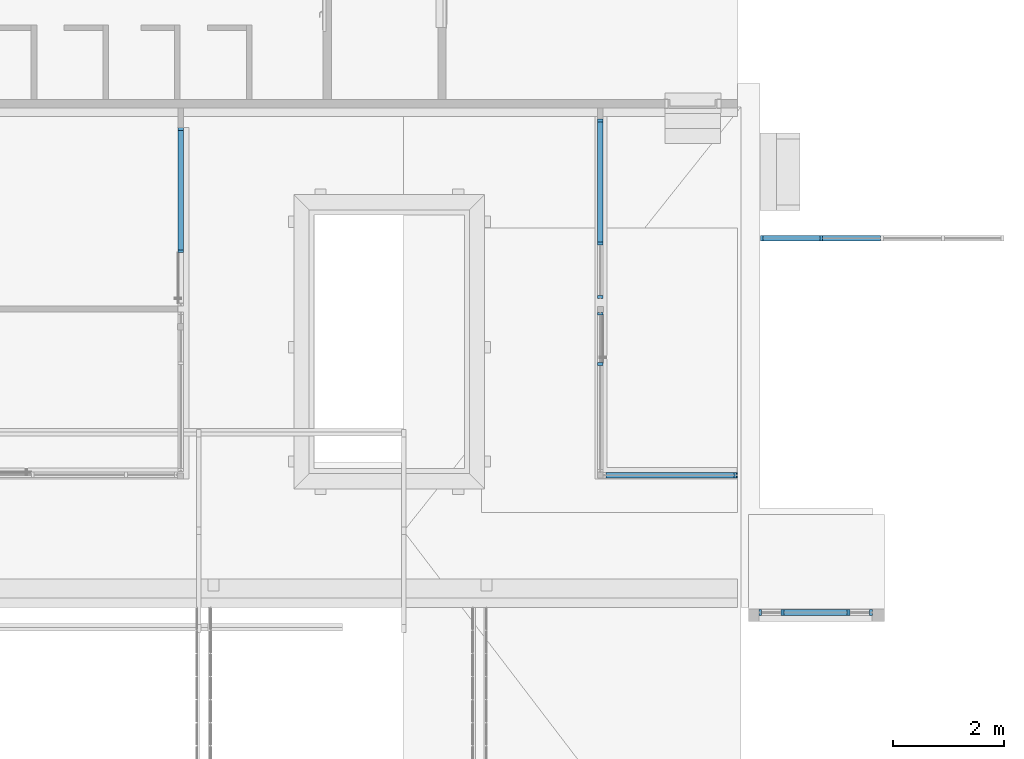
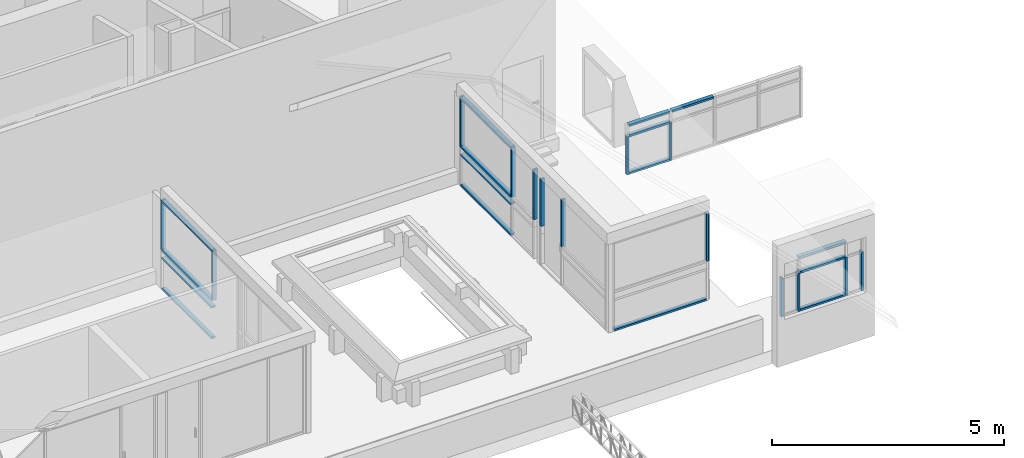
# One storey, part 12 of 153: 31 members, 6 elements without a shape of their own.
"""IFC4 building model written with IfcOpenShell, lengths in metres."""

import ifcopenshell
import ifcopenshell.guid

model = None  # the IFC model being written
_history = None  # IfcOwnerHistory: only IFC2X3 demands one
_inside = {}  # id of a spatial element -> (the spatial element, [elements in it])
_under = {}  # id of a project, library or spatial element -> (it, [spatial elements below it])
_declared = {}  # id of a project -> (the project, [libraries it declares])
_typed = {}  # id of a type object -> (the type object, [elements of that type])
_made_of = {}  # id of a material, layer set ... -> (it, [elements and type objects made of it])


def new_model(schema):
    """Start an empty IFC model of exactly this schema.

    Asked for "IFC4X3", IfcOpenShell would pick the latest addendum, in which some entities
    have other attributes; the version numbers below select the first issue.
    IFC2X3 requires an IfcOwnerHistory on every rooted entity: one is made here for all.
    """
    global model, _history
    if schema == "IFC4X3":
        model = ifcopenshell.file(schema_version=(4, 3, 0, 0))
    else:
        model = ifcopenshell.file(schema=schema)
    _inside.clear()
    _under.clear()
    _declared.clear()
    _typed.clear()
    _made_of.clear()
    _history = None
    if model.schema == "IFC2X3":
        org = make("IfcOrganization", Name="unknown")
        user = make(
            "IfcPersonAndOrganization",
            ThePerson=make("IfcPerson", FamilyName="unknown"),
            TheOrganization=org,
        )
        app = make(
            "IfcApplication",
            ApplicationDeveloper=org,
            Version="unknown",
            ApplicationFullName="unknown",
            ApplicationIdentifier="unknown",
        )
        _history = make(
            "IfcOwnerHistory",
            OwningUser=user,
            OwningApplication=app,
            ChangeAction="ADDED",
            CreationDate=0,
        )
    return model


def make(cls, **values):
    """One entity of the class cls with the attributes given. An attribute that is None is left unset."""
    return model.create_entity(
        cls, **{name: value for name, value in values.items() if value is not None}
    )


def entity(cls, *values):
    """Any entity or typed value of the class cls, its attributes in the order of the schema. None: left unset."""
    e = model.create_entity(cls)
    for i, value in enumerate(values):
        if value is not None:
            e[i] = value
    return e


def rooted(cls, **values):
    """An entity with a GlobalId (a new one), such as an element, a storey or a relation."""
    return make(cls, GlobalId=ifcopenshell.guid.new(), OwnerHistory=_history, **values)


def si_unit(unit_type, name, prefix=None):
    """IfcSIUnit, for example si_unit("LENGTHUNIT", "METRE", prefix="MILLI")."""
    return make("IfcSIUnit", UnitType=unit_type, Prefix=prefix, Name=name)


def converted_unit(unit_type, name, factor, base, dimensions=None, offset=None):
    """IfcConversionBasedUnit, such as the inch: factor (a typed value) times the base unit."""
    return make(
        "IfcConversionBasedUnit"
        if offset is None
        else "IfcConversionBasedUnitWithOffset",
        ConversionOffset=offset,
        Dimensions=None
        if dimensions is None
        else entity("IfcDimensionalExponents", *dimensions),
        UnitType=unit_type,
        Name=name,
        ConversionFactor=make(
            "IfcMeasureWithUnit", ValueComponent=factor, UnitComponent=base
        ),
    )


def derived_unit(unit_type, elements):
    """IfcDerivedUnit: a product of units, each with its exponent."""
    return make(
        "IfcDerivedUnit",
        Elements=[
            make("IfcDerivedUnitElement", Unit=unit, Exponent=power)
            for unit, power in elements
        ],
        UnitType=unit_type,
    )


def assignment(units):
    """IfcUnitAssignment: the units of a project."""
    return None if units is None else make("IfcUnitAssignment", Units=units)


def point(xyz):
    """IfcCartesianPoint."""
    return None if xyz is None else make("IfcCartesianPoint", Coordinates=xyz)


def direction(xyz):
    """IfcDirection."""
    return None if xyz is None else make("IfcDirection", DirectionRatios=xyz)


def frame(location, z_axis=None, x_axis=None):
    """IfcAxis2Placement3D, a coordinate frame: its origin and axes. An axis left out is left unset."""
    return make(
        "IfcAxis2Placement3D",
        Location=point(location),
        Axis=direction(z_axis),
        RefDirection=direction(x_axis),
    )


def origin():
    """The frame at (0, 0, 0) with its axes left unset."""
    return frame((0.0, 0.0, 0.0))


def place(relative_to, where):
    """IfcLocalPlacement: puts the frame where relative to a parent placement (None: the world)."""
    return make(
        "IfcLocalPlacement", PlacementRelTo=relative_to, RelativePlacement=where
    )


def context(
    kind, dimensions, precision=None, world=None, true_north=None, identifier=None
):
    """IfcGeometricRepresentationContext, for example the 3D "Model" context."""
    return make(
        "IfcGeometricRepresentationContext",
        ContextIdentifier=identifier,
        ContextType=kind,
        CoordinateSpaceDimension=dimensions,
        Precision=precision,
        WorldCoordinateSystem=world,
        TrueNorth=true_north,
    )


def subcontext(parent, identifier, kind, view, scale=None):
    """IfcGeometricRepresentationSubContext, for example "Body" below "Model"."""
    return make(
        "IfcGeometricRepresentationSubContext",
        ContextIdentifier=identifier,
        ContextType=kind,
        ParentContext=parent,
        TargetScale=scale,
        TargetView=view,
    )


def project(units=None, contexts=None):
    """IfcProject with its units and contexts."""
    return rooted(
        "IfcProject",
        Name="project",
        RepresentationContexts=contexts,
        UnitsInContext=assignment(units),
    )


def spatial(cls, under=None, at=None, **own):
    """A site, building, storey or space (cls), placed at a placement, below another one or the project."""
    s = rooted(cls, ObjectPlacement=at, **own)
    if under is not None:
        _under.setdefault(under.id(), (under, []))[1].append(s)
    return s


def point_list(points):
    """IfcCartesianPointList2D or 3D."""
    cls = (
        "IfcCartesianPointList2D" if len(points[0]) == 2 else "IfcCartesianPointList3D"
    )
    return make(cls, CoordList=points)


def indexed_curve(points, segments=None, self_intersect=None):
    """IfcIndexedPolyCurve: lines and arcs through numbered points (the first is 1)."""
    return make(
        "IfcIndexedPolyCurve",
        Points=point_list(points),
        Segments=segments,
        SelfIntersect=self_intersect,
    )


def outline(outer, holes=None, kind="AREA"):
    """IfcArbitraryClosedProfileDef: a profile drawn as a closed curve; with holes, ...WithVoids."""
    if holes is None:
        return make("IfcArbitraryClosedProfileDef", ProfileType=kind, OuterCurve=outer)
    return make(
        "IfcArbitraryProfileDefWithVoids",
        ProfileType=kind,
        OuterCurve=outer,
        InnerCurves=holes,
    )


def extrude(swept, where, along, depth):
    """IfcExtrudedAreaSolid: the profile swept, set in the frame where, extruded along a direction by depth."""
    return make(
        "IfcExtrudedAreaSolid",
        SweptArea=swept,
        Position=where,
        ExtrudedDirection=direction(along),
        Depth=depth,
    )


def shape(context_of_items, identifier, shape_type, items):
    """IfcShapeRepresentation: the items that make up one representation, for example the "Body"."""
    return make(
        "IfcShapeRepresentation",
        ContextOfItems=context_of_items,
        RepresentationIdentifier=identifier,
        RepresentationType=shape_type,
        Items=items,
    )


def source(mapping_origin, context_of_items, identifier, shape_type, items):
    """IfcRepresentationMap: a shape defined once, which mapped items show again and again."""
    return make(
        "IfcRepresentationMap",
        MappingOrigin=mapping_origin,
        MappedRepresentation=shape(context_of_items, identifier, shape_type, items),
    )


def transform(
    local_origin,
    x_axis=None,
    y_axis=None,
    z_axis=None,
    scale=None,
    scale2=None,
    scale3=None,
    uniform=True,
):
    """IfcCartesianTransformationOperator3D, or its non-uniform kind. x_axis, y_axis, z_axis: its Axis1, 2, 3."""
    if uniform:
        return make(
            "IfcCartesianTransformationOperator3D",
            Axis1=direction(x_axis),
            Axis2=direction(y_axis),
            LocalOrigin=point(local_origin),
            Scale=scale,
            Axis3=direction(z_axis),
        )
    return make(
        "IfcCartesianTransformationOperator3DnonUniform",
        Axis1=direction(x_axis),
        Axis2=direction(y_axis),
        LocalOrigin=point(local_origin),
        Scale=scale,
        Axis3=direction(z_axis),
        Scale2=scale2,
        Scale3=scale3,
    )


def mapped(mapping_source, mapping_target):
    """IfcMappedItem: shows the shape of a source again, moved by a transform."""
    return make(
        "IfcMappedItem", MappingSource=mapping_source, MappingTarget=mapping_target
    )


def material(Name=None, Category=None):
    """IfcMaterial."""
    return make("IfcMaterial", Name=Name, Category=Category)


def made_of(thing, what):
    """Note that an element or type object is made of a material, layer set ...; save() writes the relation."""
    if what is not None:
        _made_of.setdefault(what.id(), (what, []))[1].append(thing)
    return thing


def type_object(cls, material=None, **own):
    """A type object (cls), such as IfcWallType, which elements share."""
    return made_of(rooted(cls, **own), material)


def type_shapes(of_type, sources):
    """Give a type object the sources (RepresentationMaps) that its elements show as mapped items."""
    of_type.RepresentationMaps = sources


def element(
    cls,
    number,
    at=None,
    inside=None,
    cuts=None,
    type_object=None,
    material=None,
    context=None,
    identifier="Body",
    shape_type=None,
    held_by="IfcProductDefinitionShape",
    body=None,
    shapes=None,
    **own,
):
    """One element of the class cls, such as IfcWall. Its Tag is "e" and its number.

    at: its placement. inside: the storey or other place that contains it. cuts: it is an
    opening in that element (IfcRelVoidsElement). A single representation is given by context,
    identifier, shape_type and body (its items); several are given by shapes. held_by: the class
    of the entity that holds the representations. save() writes the other relations.
    """
    e = rooted(cls, Tag="e%d" % number, ObjectPlacement=at, **own)
    if body is not None:
        shapes = [shape(context, identifier, shape_type, body)]
    if shapes is not None:
        e.Representation = make(held_by, Representations=shapes)
    if inside is not None:
        _inside.setdefault(inside.id(), (inside, []))[1].append(e)
    if cuts is not None:
        rooted(
            "IfcRelVoidsElement", RelatingBuildingElement=cuts, RelatedOpeningElement=e
        )
    if type_object is not None:
        _typed.setdefault(type_object.id(), (type_object, []))[1].append(e)
    return made_of(e, material)


def aggregate(whole, parts):
    """IfcRelAggregates: a whole, such as a stair, and the parts it consists of."""
    return rooted("IfcRelAggregates", RelatingObject=whole, RelatedObjects=parts)


def save(model, path):
    """Write the relations noted so far, then the file.

    IfcRelAggregates (storeys below a building ...), IfcRelContainedInSpatialStructure (elements
    in a storey), IfcRelDefinesByType, IfcRelAssociatesMaterial and IfcRelDeclares: one each for
    every whole, place, type object, material and project.
    """
    for whole, parts in _under.values():
        aggregate(whole, parts)
    for where, things in _inside.values():
        rooted(
            "IfcRelContainedInSpatialStructure",
            RelatedElements=things,
            RelatingStructure=where,
        )
    for kind, things in _typed.values():
        rooted("IfcRelDefinesByType", RelatedObjects=things, RelatingType=kind)
    for what, things in _made_of.values():
        rooted("IfcRelAssociatesMaterial", RelatedObjects=things, RelatingMaterial=what)
    for by, libraries in _declared.values():
        rooted("IfcRelDeclares", RelatingContext=by, RelatedDefinitions=libraries)
    model.write(path)


model = new_model("IFC4")

# Units and contexts
model_context = context("Model", 3, precision=1e-05, world=origin(), true_north=direction((6.123031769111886e-17, 1.0)))
body_context = subcontext(model_context, "Body", "Model", "MODEL_VIEW")
ifc_project = project(units=[si_unit("LENGTHUNIT", "METRE"), si_unit("AREAUNIT", "SQUARE_METRE"), si_unit("VOLUMEUNIT", "CUBIC_METRE"), converted_unit("PLANEANGLEUNIT", "DEGREE", entity("IfcRatioMeasure", 0.017453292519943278), si_unit("PLANEANGLEUNIT", "RADIAN"), dimensions=[0, 0, 0, 0, 0, 0, 0]), si_unit("MASSUNIT", "GRAM", prefix="KILO"), derived_unit("MASSDENSITYUNIT", [(si_unit("MASSUNIT", "GRAM", prefix="KILO"), 1), (si_unit("LENGTHUNIT", "METRE"), -3)]), derived_unit("MOMENTOFINERTIAUNIT", [(si_unit("LENGTHUNIT", "METRE"), 4)]), si_unit("TIMEUNIT", "SECOND"), si_unit("FREQUENCYUNIT", "HERTZ"), si_unit("THERMODYNAMICTEMPERATUREUNIT", "DEGREE_CELSIUS"), derived_unit("THERMALTRANSMITTANCEUNIT", [(si_unit("MASSUNIT", "GRAM", prefix="KILO"), 1), (si_unit("THERMODYNAMICTEMPERATUREUNIT", "KELVIN"), -1), (si_unit("TIMEUNIT", "SECOND"), -3)]), derived_unit("VOLUMETRICFLOWRATEUNIT", [(si_unit("LENGTHUNIT", "METRE"), 3), (si_unit("TIMEUNIT", "SECOND"), -1)]), derived_unit("MASSFLOWRATEUNIT", [(si_unit("MASSUNIT", "GRAM", prefix="KILO"), 1), (si_unit("TIMEUNIT", "SECOND"), -1)]), derived_unit("ROTATIONALFREQUENCYUNIT", [(si_unit("TIMEUNIT", "SECOND"), -1)]), si_unit("ELECTRICCURRENTUNIT", "AMPERE"), si_unit("ELECTRICVOLTAGEUNIT", "VOLT"), si_unit("POWERUNIT", "WATT"), si_unit("FORCEUNIT", "NEWTON", prefix="KILO"), si_unit("ILLUMINANCEUNIT", "LUX"), si_unit("LUMINOUSFLUXUNIT", "LUMEN"), si_unit("LUMINOUSINTENSITYUNIT", "CANDELA"), derived_unit("USERDEFINED", [(si_unit("MASSUNIT", "GRAM", prefix="KILO"), -1), (si_unit("LENGTHUNIT", "METRE"), -2), (si_unit("TIMEUNIT", "SECOND"), 3), (si_unit("LUMINOUSFLUXUNIT", "LUMEN"), 1)]), derived_unit("SOUNDPOWERUNIT", [(si_unit("MASSUNIT", "GRAM", prefix="KILO"), 1), (si_unit("LENGTHUNIT", "METRE"), 2), (si_unit("TIMEUNIT", "SECOND"), -3)]), derived_unit("SOUNDPRESSUREUNIT", [(si_unit("MASSUNIT", "GRAM", prefix="KILO"), 1), (si_unit("LENGTHUNIT", "METRE"), -1), (si_unit("TIMEUNIT", "SECOND"), -2)]), derived_unit("LINEARVELOCITYUNIT", [(si_unit("LENGTHUNIT", "METRE"), 1), (si_unit("TIMEUNIT", "SECOND"), -1)]), si_unit("PRESSUREUNIT", "PASCAL"), derived_unit("USERDEFINED", [(si_unit("LENGTHUNIT", "METRE"), -2), (si_unit("MASSUNIT", "GRAM", prefix="KILO"), 1), (si_unit("TIMEUNIT", "SECOND"), -2)]), derived_unit("LINEARFORCEUNIT", [(si_unit("MASSUNIT", "GRAM", prefix="KILO"), 1), (si_unit("LENGTHUNIT", "METRE"), 1), (si_unit("TIMEUNIT", "SECOND"), -2), (si_unit("LENGTHUNIT", "METRE"), -1)]), derived_unit("PLANARFORCEUNIT", [(si_unit("MASSUNIT", "GRAM", prefix="KILO"), 1), (si_unit("LENGTHUNIT", "METRE"), 1), (si_unit("TIMEUNIT", "SECOND"), -2), (si_unit("LENGTHUNIT", "METRE"), -2)])], contexts=[model_context])

# Site, building, storey
site_placement = place(None, origin())
site = spatial("IfcSite", under=ifc_project, at=site_placement, Name="Superficie", CompositionType="ELEMENT")
building_placement = place(site_placement, origin())
building = spatial("IfcBuilding", under=site, at=building_placement, CompositionType="ELEMENT")
storey_placement = place(building_placement, frame((0.0, 0.0, 3.5999999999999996)))
storey = spatial("IfcBuildingStorey", under=building, at=storey_placement, Name="Nivel 1", CompositionType="ELEMENT", Elevation=3.5999999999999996)

# Curtain wall, members
curtain_wall_type = type_object("IfcCurtainWallType", Name="Muro cortina:Muro cortina - simple", PredefinedType="NOTDEFINED")
curtain_wall_1_placement = place(storey_placement, frame((0.0, 0.0, -3.5999999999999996)))
curtain_wall_1 = element("IfcCurtainWall", 1, at=curtain_wall_1_placement, inside=storey, type_object=curtain_wall_type, Name="Muro cortina:Muro cortina - simple", ObjectType="Muro cortina:Muro cortina - simple", PredefinedType="NOTDEFINED")
ifc_material = material(Name="<Unnamed>")
member_type_1 = type_object("IfcMemberType", Name="Montante rectangular:Montante rectangular - 5 x 10 cm", PredefinedType="MULLION", material=ifc_material)
shared_shape_1 = source(origin(), body_context, "Body", "SweptSolid", [
    extrude(outline(indexed_curve([(-0.05, -0.025), (0.05, -0.025), (0.05, 0.025), (-0.05, 0.025), (-0.05, -0.025)], self_intersect=False)), frame((0.0, 0.0, -1.0213856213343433), z_axis=(0.0, 0.0, 1.0), x_axis=(0.0, -1.0, 0.0)), (0.0, 0.0, 1.0), 1.0213856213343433),
])
type_shapes(member_type_1, [shared_shape_1])
member_1_placement = place(curtain_wall_1_placement, frame((20.996001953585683, -3.424170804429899, 4.494999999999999), z_axis=(0.0, 0.0, -1.0), x_axis=(-1.0, 0.0, 0.0)))
member_1 = element("IfcMember", 2, at=member_1_placement, type_object=member_type_1, material=ifc_material, Name="Montante rectangular:Montante rectangular - 5 x 10 cm", ObjectType="Montante rectangular:Montante rectangular - 5 x 10 cm", PredefinedType="MULLION", context=body_context, shape_type="MappedRepresentation", body=[
    mapped(shared_shape_1, transform((0.0, 0.0, 0.0), scale=1.0)),
])
member_2_placement = place(curtain_wall_1_placement, frame((22.981001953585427, -3.4241708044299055, 4.494999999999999), z_axis=(0.0, 0.0, -1.0), x_axis=(-1.0, 0.0, 0.0)))
member_2 = element("IfcMember", 3, at=member_2_placement, type_object=member_type_1, material=ifc_material, Name="Montante rectangular:Montante rectangular - 5 x 10 cm", ObjectType="Montante rectangular:Montante rectangular - 5 x 10 cm", PredefinedType="MULLION", context=body_context, shape_type="MappedRepresentation", body=[
    mapped(shared_shape_1, transform((0.0, 0.0, 0.0), scale=1.0)),
])
member_3_placement = place(curtain_wall_1_placement, frame((21.396001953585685, -3.4241708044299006, 4.494999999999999), z_axis=(0.0, 0.0, -1.0), x_axis=(-1.0, 0.0, 0.0)))
member_3 = element("IfcMember", 4, at=member_3_placement, type_object=member_type_1, material=ifc_material, Name="Montante rectangular:Montante rectangular - 5 x 10 cm", ObjectType="Montante rectangular:Montante rectangular - 5 x 10 cm", PredefinedType="MULLION", context=body_context, shape_type="MappedRepresentation", body=[
    mapped(shared_shape_1, transform((0.0, 0.0, 0.0), scale=1.0)),
])
member_4_placement = place(curtain_wall_1_placement, frame((22.581001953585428, -3.424170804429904, 4.494999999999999), z_axis=(0.0, 0.0, -1.0), x_axis=(-1.0, 0.0, 0.0)))
member_4 = element("IfcMember", 5, at=member_4_placement, type_object=member_type_1, material=ifc_material, Name="Montante rectangular:Montante rectangular - 5 x 10 cm", ObjectType="Montante rectangular:Montante rectangular - 5 x 10 cm", PredefinedType="MULLION", context=body_context, shape_type="MappedRepresentation", body=[
    mapped(shared_shape_1, transform((0.0, 0.0, 0.0), scale=1.0)),
])
member_type_2 = type_object("IfcMemberType", Name="Montante rectangular:Montante rectangular - 5 x 10 cm", PredefinedType="MULLION", material=ifc_material)
shared_shape_2 = source(origin(), body_context, "Body", "SweptSolid", [
    extrude(outline(indexed_curve([(-0.05, -0.025), (0.05, -0.025), (0.05, 0.025), (-0.05, 0.025), (-0.05, -0.025)], self_intersect=False)), frame((-0.025, 0.0, -1.1849999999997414), z_axis=(0.0, 0.0, 1.0), x_axis=(0.0, -1.0, 0.0)), (0.0, 0.0, 1.0), 1.1849999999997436),
])
type_shapes(member_type_2, [shared_shape_2])
member_5_placement = place(curtain_wall_1_placement, frame((21.396001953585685, -3.4241708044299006, 5.936385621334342), z_axis=(-1.0, 0.0, 0.0), x_axis=(0.0, 0.0, 1.0)))
member_5 = element("IfcMember", 6, at=member_5_placement, type_object=member_type_2, material=ifc_material, Name="Montante rectangular:Montante rectangular - 5 x 10 cm", ObjectType="Montante rectangular:Montante rectangular - 5 x 10 cm", PredefinedType="MULLION", context=body_context, shape_type="MappedRepresentation", body=[
    mapped(shared_shape_2, transform((0.0, 0.0, 0.0), scale=1.0)),
])
member_type_3 = type_object("IfcMemberType", Name="Montante rectangular:Montante rectangular - 5 x 10 cm", PredefinedType="MULLION", material=ifc_material)
shared_shape_3 = source(origin(), body_context, "Body", "SweptSolid", [
    extrude(outline(indexed_curve([(-0.05, -0.025), (0.05, -0.025), (0.05, 0.025), (-0.05, 0.025), (-0.05, -0.025)], self_intersect=False)), frame((0.0, 0.0, -1.1349999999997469), z_axis=(0.0, 0.0, 1.0), x_axis=(0.0, -1.0, 0.0)), (0.0, 0.0, 1.0), 1.1349999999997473),
])
type_shapes(member_type_3, [shared_shape_3])
member_6_placement = place(curtain_wall_1_placement, frame((21.421001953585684, -3.4241708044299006, 4.52), z_axis=(-1.0, 0.0, 0.0), x_axis=(0.0, 0.0, 1.0)))
member_6 = element("IfcMember", 7, at=member_6_placement, type_object=member_type_3, material=ifc_material, Name="Montante rectangular:Montante rectangular - 5 x 10 cm", ObjectType="Montante rectangular:Montante rectangular - 5 x 10 cm", PredefinedType="MULLION", context=body_context, shape_type="MappedRepresentation", body=[
    mapped(shared_shape_3, transform((0.0, 0.0, 0.0), scale=1.0)),
])
member_7_placement = place(curtain_wall_1_placement, frame((21.421001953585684, -3.4241708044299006, 5.516385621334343), z_axis=(-1.0, 0.0, 0.0), x_axis=(0.0, 0.0, 1.0)))
member_7 = element("IfcMember", 8, at=member_7_placement, type_object=member_type_3, material=ifc_material, Name="Montante rectangular:Montante rectangular - 5 x 10 cm", ObjectType="Montante rectangular:Montante rectangular - 5 x 10 cm", PredefinedType="MULLION", context=body_context, shape_type="MappedRepresentation", body=[
    mapped(shared_shape_3, transform((0.0, 0.0, 0.0), scale=1.0)),
])
aggregate(curtain_wall_1, [member_1, member_2, member_5, member_6, member_3, member_7, member_4])

curtain_wall_2_placement = place(storey_placement, frame((0.0, 0.0, -3.5999999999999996)))
curtain_wall_2 = element("IfcCurtainWall", 9, at=curtain_wall_2_placement, inside=storey, type_object=curtain_wall_type, Name="Muro cortina:Muro cortina - simple", ObjectType="Muro cortina:Muro cortina - simple", PredefinedType="NOTDEFINED")
member_type_4 = type_object("IfcMemberType", Name="Montante rectangular:Montante rectangular - 5 x 10 cm", PredefinedType="MULLION", material=ifc_material)
shared_shape_4 = source(origin(), body_context, "Body", "SweptSolid", [
    extrude(outline(indexed_curve([(-0.05, -0.025), (0.05, -0.025), (0.05, 0.025), (-0.05, 0.025), (-0.05, -0.025)], self_intersect=False)), frame((-0.025, 0.0, -1.2499999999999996), z_axis=(0.0, 0.0, 1.0), x_axis=(0.0, -1.0, 0.0)), (0.0, 0.0, 1.0), 1.2499999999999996),
])
type_shapes(member_type_4, [shared_shape_4])
member_8_placement = place(curtain_wall_2_placement, frame((20.58679901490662, -0.963606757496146, 4.63), z_axis=(0.0, 0.0, -1.0), x_axis=(1.0, 0.0, 0.0)))
member_8 = element("IfcMember", 10, at=member_8_placement, type_object=member_type_4, material=ifc_material, Name="Montante rectangular:Montante rectangular - 5 x 10 cm", ObjectType="Montante rectangular:Montante rectangular - 5 x 10 cm", PredefinedType="MULLION", context=body_context, shape_type="MappedRepresentation", body=[
    mapped(shared_shape_4, transform((0.0, 0.0, 0.0), scale=1.0)),
])
member_type_5 = type_object("IfcMemberType", Name="Montante rectangular:Montante rectangular - 5 x 10 cm", PredefinedType="MULLION", material=ifc_material)
shared_shape_5 = source(origin(), body_context, "Body", "SweptSolid", [
    extrude(outline(indexed_curve([(-0.05, -0.025), (0.05, -0.025), (0.05, 0.025), (-0.05, 0.025), (-0.05, -0.025)], self_intersect=False)), frame((0.0, 0.0, -2.2950000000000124), z_axis=(0.0, 0.0, 1.0), x_axis=(0.0, -1.0, 0.0)), (0.0, 0.0, 1.0), 2.2950000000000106),
])
type_shapes(member_type_5, [shared_shape_5])
member_9_placement = place(curtain_wall_2_placement, frame((20.521799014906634, -0.9636067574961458, 3.619999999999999), z_axis=(1.0, 0.0, 0.0), x_axis=(0.0, 0.0, 1.0)))
member_9 = element("IfcMember", 11, at=member_9_placement, type_object=member_type_5, material=ifc_material, Name="Montante rectangular:Montante rectangular - 5 x 10 cm", ObjectType="Montante rectangular:Montante rectangular - 5 x 10 cm", PredefinedType="MULLION", context=body_context, shape_type="MappedRepresentation", body=[
    mapped(shared_shape_5, transform((0.0, 0.0, 0.0), scale=1.0)),
])
member_type_6 = type_object("IfcMemberType", Name="Montante rectangular:Montante rectangular - 5 x 10 cm", PredefinedType="MULLION", material=ifc_material)
shared_shape_6 = source(origin(), body_context, "Body", "SweptSolid", [
    extrude(outline(indexed_curve([(-0.05, -0.025), (0.05, -0.025), (0.05, 0.025), (-0.05, 0.025), (-0.05, -0.025)], self_intersect=False)), frame((0.0, 0.0, -1.2499999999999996), z_axis=(0.0, 0.0, 1.0), x_axis=(0.0, -1.0, 0.0)), (0.0, 0.0, 1.0), 1.2499999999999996),
])
type_shapes(member_type_6, [shared_shape_6])
member_10_placement = place(curtain_wall_2_placement, frame((20.546799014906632, -0.9636067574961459, 4.63), z_axis=(0.0, 0.0, -1.0), x_axis=(1.0, 0.0, 0.0)))
member_10 = element("IfcMember", 12, at=member_10_placement, type_object=member_type_6, material=ifc_material, Name="Montante rectangular:Montante rectangular - 5 x 10 cm", ObjectType="Montante rectangular:Montante rectangular - 5 x 10 cm", PredefinedType="MULLION", context=body_context, shape_type="MappedRepresentation", body=[
    mapped(shared_shape_6, transform((0.0, 0.0, 0.0), scale=1.0)),
])
aggregate(curtain_wall_2, [member_8, member_9, member_10])

curtain_wall_3_placement = place(storey_placement, frame((0.0, 0.0, -3.5999999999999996)))
curtain_wall_3 = element("IfcCurtainWall", 13, at=curtain_wall_3_placement, inside=storey, type_object=curtain_wall_type, Name="Muro cortina:Muro cortina - simple", ObjectType="Muro cortina:Muro cortina - simple", PredefinedType="NOTDEFINED")
member_type_7 = type_object("IfcMemberType", Name="Montante rectangular:Montante rectangular - 5 x 10 cm", PredefinedType="MULLION", material=ifc_material)
shared_shape_7 = source(origin(), body_context, "Body", "SweptSolid", [
    extrude(outline(indexed_curve([(-0.05, -0.025), (0.05, -0.025), (0.05, 0.025), (-0.05, 0.025), (-0.05, -0.025)], self_intersect=False)), frame((0.0, 0.0, -1.2499999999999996), z_axis=(0.0, 0.0, 1.0), x_axis=(0.0, -1.0, 0.0)), (0.0, 0.0, 1.0), 1.2499999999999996),
])
type_shapes(member_type_7, [shared_shape_7])
member_11_placement = place(curtain_wall_3_placement, frame((18.12679901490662, 1.935232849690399, 4.63), z_axis=(0.0, 0.0, -1.0), x_axis=(0.0, 1.0, 0.0)))
member_11 = element("IfcMember", 14, at=member_11_placement, type_object=member_type_7, material=ifc_material, Name="Montante rectangular:Montante rectangular - 5 x 10 cm", ObjectType="Montante rectangular:Montante rectangular - 5 x 10 cm", PredefinedType="MULLION", context=body_context, shape_type="MappedRepresentation", body=[
    mapped(shared_shape_7, transform((0.0, 0.0, 0.0), scale=1.0)),
])
member_type_8 = type_object("IfcMemberType", Name="Montante rectangular:Montante rectangular - 5 x 10 cm", PredefinedType="MULLION", material=ifc_material)
shared_shape_8 = source(origin(), body_context, "Body", "SweptSolid", [
    extrude(outline(indexed_curve([(-0.05, -0.025), (0.05, -0.025), (0.05, 0.025), (-0.05, 0.025), (-0.05, -0.025)], self_intersect=False)), frame((0.0, 0.0, -1.2499999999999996), z_axis=(0.0, 0.0, 1.0), x_axis=(0.0, -1.0, 0.0)), (0.0, 0.0, 1.0), 1.2499999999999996),
])
type_shapes(member_type_8, [shared_shape_8])
member_12_placement = place(curtain_wall_3_placement, frame((18.12679901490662, 1.0352328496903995, 4.63), z_axis=(0.0, 0.0, -1.0), x_axis=(0.0, 1.0, 0.0)))
member_12 = element("IfcMember", 15, at=member_12_placement, type_object=member_type_8, material=ifc_material, Name="Montante rectangular:Montante rectangular - 5 x 10 cm", ObjectType="Montante rectangular:Montante rectangular - 5 x 10 cm", PredefinedType="MULLION", context=body_context, shape_type="MappedRepresentation", body=[
    mapped(shared_shape_8, transform((0.0, 0.0, 0.0), scale=1.0)),
])
aggregate(curtain_wall_3, [member_11, member_12])

curtain_wall_4_placement = place(storey_placement, frame((0.0, 0.0, -3.5999999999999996)))
curtain_wall_4 = element("IfcCurtainWall", 16, at=curtain_wall_4_placement, inside=storey, type_object=curtain_wall_type, Name="Muro cortina:Muro cortina - simple", ObjectType="Muro cortina:Muro cortina - simple", PredefinedType="NOTDEFINED")
member_type_9 = type_object("IfcMemberType", Name="Montante rectangular:Montante rectangular - 5 x 10 cm", PredefinedType="MULLION", material=ifc_material)
shared_shape_9 = source(origin(), body_context, "Body", "SweptSolid", [
    extrude(outline(indexed_curve([(-0.05, -0.025), (0.05, -0.025), (0.05, 0.025), (-0.05, 0.025), (-0.05, -0.025)], self_intersect=False)), frame((0.0, 0.0, -2.156160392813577), z_axis=(0.0, 0.0, 1.0), x_axis=(0.0, -1.0, 0.0)), (0.0, 0.0, 1.0), 2.156160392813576),
])
type_shapes(member_type_9, [shared_shape_9])
member_13_placement = place(curtain_wall_4_placement, frame((18.12679901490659, 5.376393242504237, 4.63), z_axis=(0.0, 1.0, 0.0), x_axis=(0.0, 0.0, 1.0)))
member_13 = element("IfcMember", 17, at=member_13_placement, type_object=member_type_9, material=ifc_material, Name="Montante rectangular:Montante rectangular - 5 x 10 cm", ObjectType="Montante rectangular:Montante rectangular - 5 x 10 cm", PredefinedType="MULLION", context=body_context, shape_type="MappedRepresentation", body=[
    mapped(shared_shape_9, transform((0.0, 0.0, 0.0), scale=1.0)),
])
member_14_placement = place(curtain_wall_4_placement, frame((18.12679901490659, 5.376393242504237, 4.43), z_axis=(0.0, 1.0, 0.0), x_axis=(0.0, 0.0, 1.0)))
member_14 = element("IfcMember", 18, at=member_14_placement, type_object=member_type_9, material=ifc_material, Name="Montante rectangular:Montante rectangular - 5 x 10 cm", ObjectType="Montante rectangular:Montante rectangular - 5 x 10 cm", PredefinedType="MULLION", context=body_context, shape_type="MappedRepresentation", body=[
    mapped(shared_shape_9, transform((0.0, 0.0, 0.0), scale=1.0)),
])
member_15_placement = place(curtain_wall_4_placement, frame((18.12679901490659, 5.376393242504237, 3.619999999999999), z_axis=(0.0, 1.0, 0.0), x_axis=(0.0, 0.0, 1.0)))
member_15 = element("IfcMember", 19, at=member_15_placement, type_object=member_type_9, material=ifc_material, Name="Montante rectangular:Montante rectangular - 5 x 10 cm", ObjectType="Montante rectangular:Montante rectangular - 5 x 10 cm", PredefinedType="MULLION", context=body_context, shape_type="MappedRepresentation", body=[
    mapped(shared_shape_9, transform((0.0, 0.0, 0.0), scale=1.0)),
])
member_type_10 = type_object("IfcMemberType", Name="Montante rectangular:Montante rectangular - 5 x 10 cm", PredefinedType="MULLION", material=ifc_material)
shared_shape_10 = source(origin(), body_context, "Body", "SweptSolid", [
    extrude(outline(indexed_curve([(-0.05, -0.025), (0.05, -0.025), (0.05, 0.025), (-0.05, 0.025), (-0.05, -0.025)], self_intersect=False)), frame((0.0, 0.0, -1.3199999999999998), z_axis=(0.0, 0.0, 1.0), x_axis=(0.0, -1.0, 0.0)), (0.0, 0.0, 1.0), 1.3199999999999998),
])
type_shapes(member_type_10, [shared_shape_10])
member_16_placement = place(curtain_wall_4_placement, frame((18.12679901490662, 3.1952328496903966, 4.63), z_axis=(0.0, 0.0, -1.0), x_axis=(0.0, 1.0, 0.0)))
member_16 = element("IfcMember", 20, at=member_16_placement, type_object=member_type_10, material=ifc_material, Name="Montante rectangular:Montante rectangular - 5 x 10 cm", ObjectType="Montante rectangular:Montante rectangular - 5 x 10 cm", PredefinedType="MULLION", context=body_context, shape_type="MappedRepresentation", body=[
    mapped(shared_shape_10, transform((0.0, 0.0, 0.0), scale=1.0)),
])
member_17_placement = place(curtain_wall_4_placement, frame((18.12679901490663, 2.235232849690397, 4.63), z_axis=(0.0, 0.0, -1.0), x_axis=(0.0, 1.0, 0.0)))
member_17 = element("IfcMember", 21, at=member_17_placement, type_object=member_type_10, material=ifc_material, Name="Montante rectangular:Montante rectangular - 5 x 10 cm", ObjectType="Montante rectangular:Montante rectangular - 5 x 10 cm", PredefinedType="MULLION", context=body_context, shape_type="MappedRepresentation", body=[
    mapped(shared_shape_10, transform((0.0, 0.0, 0.0), scale=1.0)),
])

# Curtain wall, member
curtain_wall_5_placement = place(storey_placement, frame((0.0, 0.0, -3.5999999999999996)))
curtain_wall_5 = element("IfcCurtainWall", 22, at=curtain_wall_5_placement, inside=storey, type_object=curtain_wall_type, Name="Muro cortina:Muro cortina - simple", ObjectType="Muro cortina:Muro cortina - simple", PredefinedType="NOTDEFINED")
member_18_placement = place(curtain_wall_5_placement, frame((10.596799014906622, 3.057083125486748, 4.63), z_axis=(0.0, 0.0, -1.0), x_axis=(0.0, 1.0, 0.0)))
member_18 = element("IfcMember", 23, at=member_18_placement, type_object=member_type_10, material=ifc_material, Name="Montante rectangular:Montante rectangular - 5 x 10 cm", ObjectType="Montante rectangular:Montante rectangular - 5 x 10 cm", PredefinedType="MULLION", context=body_context, shape_type="MappedRepresentation", body=[
    mapped(shared_shape_10, transform((0.0, 0.0, 0.0), scale=1.0)),
])

# Member
member_type_11 = type_object("IfcMemberType", Name="Montante rectangular:Montante rectangular - 5 x 10 cm", PredefinedType="MULLION", material=ifc_material)
shared_shape_11 = source(origin(), body_context, "Body", "SweptSolid", [
    extrude(outline(indexed_curve([(-0.05, -0.025), (0.05, -0.025), (0.05, 0.025), (-0.05, 0.025), (-0.05, -0.025)], self_intersect=False)), frame((-0.025, 0.0, -1.3199999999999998), z_axis=(0.0, 0.0, 1.0), x_axis=(0.0, -1.0, 0.0)), (0.0, 0.0, 1.0), 1.3199999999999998),
])
type_shapes(member_type_11, [shared_shape_11])
member_19_placement = place(curtain_wall_4_placement, frame((18.12679901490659, 5.426393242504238, 4.63), z_axis=(0.0, 0.0, -1.0), x_axis=(0.0, 1.0, 0.0)))
member_19 = element("IfcMember", 24, at=member_19_placement, type_object=member_type_11, material=ifc_material, Name="Montante rectangular:Montante rectangular - 5 x 10 cm", ObjectType="Montante rectangular:Montante rectangular - 5 x 10 cm", PredefinedType="MULLION", context=body_context, shape_type="MappedRepresentation", body=[
    mapped(shared_shape_11, transform((0.0, 0.0, 0.0), scale=1.0)),
])

member_20_placement = place(curtain_wall_5_placement, frame((10.596799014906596, 5.276393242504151, 4.63), z_axis=(0.0, 0.0, -1.0), x_axis=(0.0, 1.0, 0.0)))
member_20 = element("IfcMember", 25, at=member_20_placement, type_object=member_type_11, material=ifc_material, Name="Montante rectangular:Montante rectangular - 5 x 10 cm", ObjectType="Montante rectangular:Montante rectangular - 5 x 10 cm", PredefinedType="MULLION", context=body_context, shape_type="MappedRepresentation", body=[
    mapped(shared_shape_11, transform((0.0, 0.0, 0.0), scale=1.0)),
])

member_type_12 = type_object("IfcMemberType", Name="Montante rectangular:Montante rectangular - 5 x 10 cm", PredefinedType="MULLION", material=ifc_material)
shared_shape_12 = source(origin(), body_context, "Body", "SweptSolid", [
    extrude(outline(indexed_curve([(-0.05, -0.025), (0.05, -0.025), (0.05, 0.025), (-0.05, 0.025), (-0.05, -0.025)], self_intersect=False)), frame((-0.025, 0.0, -2.1561603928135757), z_axis=(0.0, 0.0, 1.0), x_axis=(0.0, -1.0, 0.0)), (0.0, 0.0, 1.0), 2.1561603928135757),
])
type_shapes(member_type_12, [shared_shape_12])
member_21_placement = place(curtain_wall_4_placement, frame((18.12679901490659, 5.376393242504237, 5.949999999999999), z_axis=(0.0, 1.0, 0.0), x_axis=(0.0, 0.0, 1.0)))
member_21 = element("IfcMember", 26, at=member_21_placement, type_object=member_type_12, material=ifc_material, Name="Montante rectangular:Montante rectangular - 5 x 10 cm", ObjectType="Montante rectangular:Montante rectangular - 5 x 10 cm", PredefinedType="MULLION", context=body_context, shape_type="MappedRepresentation", body=[
    mapped(shared_shape_12, transform((0.0, 0.0, 0.0), scale=1.0)),
])

aggregate(curtain_wall_4, [member_13, member_14, member_16, member_15, member_19, member_17, member_21])

member_type_13 = type_object("IfcMemberType", Name="Montante rectangular:Montante rectangular - 5 x 10 cm", PredefinedType="MULLION", material=ifc_material)
shared_shape_13 = source(origin(), body_context, "Body", "SweptSolid", [
    extrude(outline(indexed_curve([(-0.05, -0.025), (0.05, -0.025), (0.05, 0.025), (-0.05, 0.025), (-0.05, -0.025)], self_intersect=False)), frame((0.0, 0.0, -2.1443101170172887), z_axis=(0.0, 0.0, 1.0), x_axis=(0.0, -1.0, 0.0)), (0.0, 0.0, 1.0), 2.144310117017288),
])
type_shapes(member_type_13, [shared_shape_13])
member_22_placement = place(curtain_wall_5_placement, frame((10.596799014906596, 5.22639324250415, 4.63), z_axis=(0.0, 1.0, 0.0), x_axis=(0.0, 0.0, 1.0)))
member_22 = element("IfcMember", 27, at=member_22_placement, type_object=member_type_13, material=ifc_material, Name="Montante rectangular:Montante rectangular - 5 x 10 cm", ObjectType="Montante rectangular:Montante rectangular - 5 x 10 cm", PredefinedType="MULLION", context=body_context, shape_type="MappedRepresentation", body=[
    mapped(shared_shape_13, transform((0.0, 0.0, 0.0), scale=1.0)),
])

member_23_placement = place(curtain_wall_5_placement, frame((10.596799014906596, 5.22639324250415, 4.43), z_axis=(0.0, 1.0, 0.0), x_axis=(0.0, 0.0, 1.0)))
member_23 = element("IfcMember", 28, at=member_23_placement, type_object=member_type_13, material=ifc_material, Name="Montante rectangular:Montante rectangular - 5 x 10 cm", ObjectType="Montante rectangular:Montante rectangular - 5 x 10 cm", PredefinedType="MULLION", context=body_context, shape_type="MappedRepresentation", body=[
    mapped(shared_shape_13, transform((0.0, 0.0, 0.0), scale=1.0)),
])

member_24_placement = place(curtain_wall_5_placement, frame((10.596799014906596, 5.22639324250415, 3.619999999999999), z_axis=(0.0, 1.0, 0.0), x_axis=(0.0, 0.0, 1.0)))
member_24 = element("IfcMember", 29, at=member_24_placement, type_object=member_type_13, material=ifc_material, Name="Montante rectangular:Montante rectangular - 5 x 10 cm", ObjectType="Montante rectangular:Montante rectangular - 5 x 10 cm", PredefinedType="MULLION", context=body_context, shape_type="MappedRepresentation", body=[
    mapped(shared_shape_13, transform((0.0, 0.0, 0.0), scale=1.0)),
])

member_type_14 = type_object("IfcMemberType", Name="Montante rectangular:Montante rectangular - 5 x 10 cm", PredefinedType="MULLION", material=ifc_material)
shared_shape_14 = source(origin(), body_context, "Body", "SweptSolid", [
    extrude(outline(indexed_curve([(-0.05, -0.025), (0.05, -0.025), (0.05, 0.025), (-0.05, 0.025), (-0.05, -0.025)], self_intersect=False)), frame((-0.025, 0.0, -2.1443101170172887), z_axis=(0.0, 0.0, 1.0), x_axis=(0.0, -1.0, 0.0)), (0.0, 0.0, 1.0), 2.1443101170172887),
])
type_shapes(member_type_14, [shared_shape_14])
member_25_placement = place(curtain_wall_5_placement, frame((10.596799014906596, 5.22639324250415, 5.949999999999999), z_axis=(0.0, 1.0, 0.0), x_axis=(0.0, 0.0, 1.0)))
member_25 = element("IfcMember", 30, at=member_25_placement, type_object=member_type_14, material=ifc_material, Name="Montante rectangular:Montante rectangular - 5 x 10 cm", ObjectType="Montante rectangular:Montante rectangular - 5 x 10 cm", PredefinedType="MULLION", context=body_context, shape_type="MappedRepresentation", body=[
    mapped(shared_shape_14, transform((0.0, 0.0, 0.0), scale=1.0)),
])

aggregate(curtain_wall_5, [member_22, member_23, member_18, member_24, member_20, member_25])

# Curtain wall, members
curtain_wall_6_placement = place(storey_placement, frame((0.0, 0.0, -3.5999999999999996)))
curtain_wall_6 = element("IfcCurtainWall", 31, at=curtain_wall_6_placement, inside=storey, type_object=curtain_wall_type, Name="Muro cortina:Muro cortina - simple", ObjectType="Muro cortina:Muro cortina - simple", PredefinedType="NOTDEFINED")
member_type_15 = type_object("IfcMemberType", Name="Montante rectangular:Montante rectangular - 5 x 10 cm", PredefinedType="MULLION", material=ifc_material)
shared_shape_15 = source(origin(), body_context, "Body", "SweptSolid", [
    extrude(outline(indexed_curve([(-0.05, -0.025), (0.05, -0.025), (0.05, 0.025), (-0.05, 0.025), (-0.05, -0.025)], self_intersect=False)), frame((-0.025, 0.0, -1.0182218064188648), z_axis=(0.0, 0.0, 1.0), x_axis=(0.0, -1.0, 0.0)), (0.0, 0.0, 1.0), 1.0182218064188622),
])
type_shapes(member_type_15, [shared_shape_15])
member_26_placement = place(curtain_wall_6_placement, frame((21.045449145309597, 3.2908292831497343, 4.159999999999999), z_axis=(-1.0, 0.0, 0.0), x_axis=(0.0, 0.0, -1.0)))
member_26 = element("IfcMember", 32, at=member_26_placement, type_object=member_type_15, material=ifc_material, Name="Montante rectangular:Montante rectangular - 5 x 10 cm", ObjectType="Montante rectangular:Montante rectangular - 5 x 10 cm", PredefinedType="MULLION", context=body_context, shape_type="MappedRepresentation", body=[
    mapped(shared_shape_15, transform((0.0, 0.0, 0.0), scale=1.0)),
])
member_type_16 = type_object("IfcMemberType", Name="Montante rectangular:Montante rectangular - 5 x 10 cm", PredefinedType="MULLION", material=ifc_material)
shared_shape_16 = source(origin(), body_context, "Body", "SweptSolid", [
    extrude(outline(indexed_curve([(-0.05, -0.025), (0.05, -0.025), (0.05, 0.025), (-0.05, 0.025), (-0.05, -0.025)], self_intersect=False)), frame((-0.025, 0.0, -1.0182218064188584), z_axis=(0.0, 0.0, 1.0), x_axis=(0.0, -1.0, 0.0)), (0.0, 0.0, 1.0), 1.0182218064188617),
])
type_shapes(member_type_16, [shared_shape_16])
member_27_placement = place(curtain_wall_6_placement, frame((22.063670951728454, 3.290829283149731, 5.470714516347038), z_axis=(1.0, 0.0, 0.0), x_axis=(0.0, 0.0, 1.0)))
member_27 = element("IfcMember", 33, at=member_27_placement, type_object=member_type_16, material=ifc_material, Name="Montante rectangular:Montante rectangular - 5 x 10 cm", ObjectType="Montante rectangular:Montante rectangular - 5 x 10 cm", PredefinedType="MULLION", context=body_context, shape_type="MappedRepresentation", body=[
    mapped(shared_shape_16, transform((0.0, 0.0, 0.0), scale=1.0)),
])
member_type_17 = type_object("IfcMemberType", Name="Montante rectangular:Montante rectangular - 5 x 10 cm", PredefinedType="MULLION", material=ifc_material)
shared_shape_17 = source(origin(), body_context, "Body", "SweptSolid", [
    extrude(outline(indexed_curve([(-0.05, -0.025), (0.05, -0.025), (0.05, 0.025), (-0.05, 0.025), (-0.05, -0.025)], self_intersect=False)), frame((-0.025, 0.0, -1.0432218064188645), z_axis=(0.0, 0.0, 1.0), x_axis=(0.0, -1.0, 0.0)), (0.0, 0.0, 1.0), 1.0432218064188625),
])
type_shapes(member_type_17, [shared_shape_17])
member_28_placement = place(curtain_wall_6_placement, frame((23.15689275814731, 3.2908292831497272, 5.470714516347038), z_axis=(1.0, 0.0, 0.0), x_axis=(0.0, 0.0, 1.0)))
member_28 = element("IfcMember", 34, at=member_28_placement, type_object=member_type_17, material=ifc_material, Name="Montante rectangular:Montante rectangular - 5 x 10 cm", ObjectType="Montante rectangular:Montante rectangular - 5 x 10 cm", PredefinedType="MULLION", context=body_context, shape_type="MappedRepresentation", body=[
    mapped(shared_shape_17, transform((0.0, 0.0, 0.0), scale=1.0)),
])
member_type_18 = type_object("IfcMemberType", Name="Montante rectangular:Montante rectangular - 5 x 10 cm", PredefinedType="MULLION", material=ifc_material)
shared_shape_18 = source(origin(), body_context, "Body", "SweptSolid", [
    extrude(outline(indexed_curve([(-0.05, -0.025), (0.05, -0.025), (0.05, 0.025), (-0.05, 0.025), (-0.05, -0.025)], self_intersect=False)), frame((-0.025, 0.0, -1.0107145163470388), z_axis=(0.0, 0.0, 1.0), x_axis=(0.0, -1.0, 0.0)), (0.0, 0.0, 1.0), 1.0107145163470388),
])
type_shapes(member_type_18, [shared_shape_18])
member_29_placement = place(curtain_wall_6_placement, frame((20.995449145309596, 3.2908292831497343, 5.170714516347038), z_axis=(0.0, 0.0, 1.0), x_axis=(-1.0, 0.0, 0.0)))
member_29 = element("IfcMember", 35, at=member_29_placement, type_object=member_type_18, material=ifc_material, Name="Montante rectangular:Montante rectangular - 5 x 10 cm", ObjectType="Montante rectangular:Montante rectangular - 5 x 10 cm", PredefinedType="MULLION", context=body_context, shape_type="MappedRepresentation", body=[
    mapped(shared_shape_18, transform((0.0, 0.0, 0.0), scale=1.0)),
])
member_type_19 = type_object("IfcMemberType", Name="Montante rectangular:Montante rectangular - 5 x 10 cm", PredefinedType="MULLION", material=ifc_material)
shared_shape_19 = source(origin(), body_context, "Body", "SweptSolid", [
    extrude(outline(indexed_curve([(-0.05, -0.025), (0.05, -0.025), (0.05, 0.025), (-0.05, 0.025), (-0.05, -0.025)], self_intersect=False)), frame((0.0, 0.0, -1.0182218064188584), z_axis=(0.0, 0.0, 1.0), x_axis=(0.0, -1.0, 0.0)), (0.0, 0.0, 1.0), 1.0182218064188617),
])
type_shapes(member_type_19, [shared_shape_19])
member_30_placement = place(curtain_wall_6_placement, frame((22.063670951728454, 3.290829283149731, 5.170714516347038), z_axis=(1.0, 0.0, 0.0), x_axis=(0.0, 0.0, 1.0)))
member_30 = element("IfcMember", 36, at=member_30_placement, type_object=member_type_19, material=ifc_material, Name="Montante rectangular:Montante rectangular - 5 x 10 cm", ObjectType="Montante rectangular:Montante rectangular - 5 x 10 cm", PredefinedType="MULLION", context=body_context, shape_type="MappedRepresentation", body=[
    mapped(shared_shape_19, transform((0.0, 0.0, 0.0), scale=1.0)),
])
member_type_20 = type_object("IfcMemberType", Name="Montante rectangular:Montante rectangular - 5 x 10 cm", PredefinedType="MULLION", material=ifc_material)
shared_shape_20 = source(origin(), body_context, "Body", "SweptSolid", [
    extrude(outline(indexed_curve([(-0.05, -0.025), (0.05, -0.025), (0.05, 0.025), (-0.05, 0.025), (-0.05, -0.025)], self_intersect=False)), frame((0.0, 0.0, -1.0107145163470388), z_axis=(0.0, 0.0, 1.0), x_axis=(0.0, -1.0, 0.0)), (0.0, 0.0, 1.0), 1.0107145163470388),
])
type_shapes(member_type_20, [shared_shape_20])
member_31_placement = place(curtain_wall_6_placement, frame((22.088670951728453, 3.290829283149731, 4.159999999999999), z_axis=(0.0, 0.0, -1.0), x_axis=(1.0, 0.0, 0.0)))
member_31 = element("IfcMember", 37, at=member_31_placement, type_object=member_type_20, material=ifc_material, Name="Montante rectangular:Montante rectangular - 5 x 10 cm", ObjectType="Montante rectangular:Montante rectangular - 5 x 10 cm", PredefinedType="MULLION", context=body_context, shape_type="MappedRepresentation", body=[
    mapped(shared_shape_20, transform((0.0, 0.0, 0.0), scale=1.0)),
])
aggregate(curtain_wall_6, [member_26, member_28, member_27, member_29, member_30, member_31])

save(model, "model.ifc")
